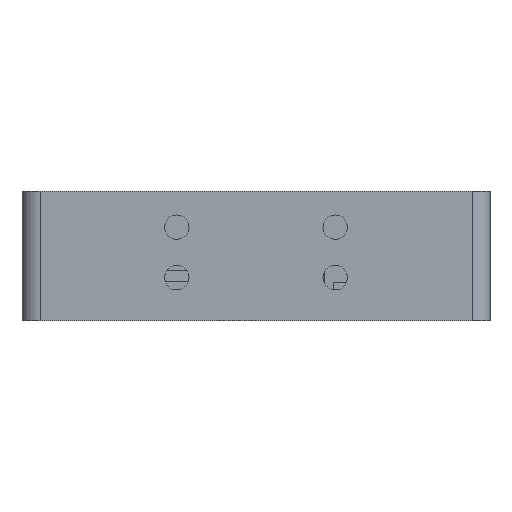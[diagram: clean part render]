
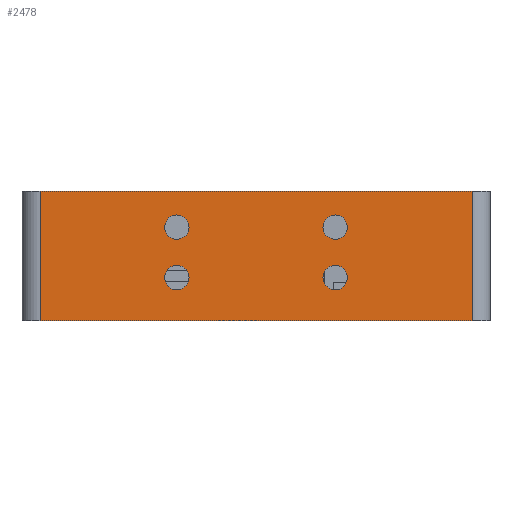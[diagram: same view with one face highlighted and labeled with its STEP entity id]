
A CAD part, front view. The second image highlights one B-rep face of the part: STEP entity #2478.
In plain terms, the highlighted planar face has unit normal (0, -1, 0).
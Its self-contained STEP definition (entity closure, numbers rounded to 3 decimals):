
#44 = PLANE('',#45);
#45 = AXIS2_PLACEMENT_3D('',#46,#47,#48);
#46 = CARTESIAN_POINT('',(0.,0.,36.));
#47 = DIRECTION('',(0.,0.,1.));
#48 = DIRECTION('',(1.,0.,-0.));
#72 = CYLINDRICAL_SURFACE('',#73,5.);
#73 = AXIS2_PLACEMENT_3D('',#74,#75,#76);
#74 = CARTESIAN_POINT('',(5.,5.,0.));
#75 = DIRECTION('',(0.,0.,1.));
#76 = DIRECTION('',(-1.,-0.,0.));
#100 = PLANE('',#101);
#101 = AXIS2_PLACEMENT_3D('',#102,#103,#104);
#102 = CARTESIAN_POINT('',(0.,0.,0.));
#103 = DIRECTION('',(0.,0.,1.));
#104 = DIRECTION('',(1.,0.,-0.));
#2319 = CYLINDRICAL_SURFACE('',#2320,3.4);
#2320 = AXIS2_PLACEMENT_3D('',#2321,#2322,#2323);
#2321 = CARTESIAN_POINT('',(43.,-1.,12.));
#2322 = DIRECTION('',(0.,1.,0.));
#2323 = DIRECTION('',(0.,-0.,1.));
#2350 = CYLINDRICAL_SURFACE('',#2351,3.4);
#2351 = AXIS2_PLACEMENT_3D('',#2352,#2353,#2354);
#2352 = CARTESIAN_POINT('',(43.,-1.,26.));
#2353 = DIRECTION('',(0.,1.,0.));
#2354 = DIRECTION('',(0.,-0.,1.));
#2381 = CYLINDRICAL_SURFACE('',#2382,3.4);
#2382 = AXIS2_PLACEMENT_3D('',#2383,#2384,#2385);
#2383 = CARTESIAN_POINT('',(87.,-1.,12.));
#2384 = DIRECTION('',(0.,1.,0.));
#2385 = DIRECTION('',(0.,-0.,1.));
#2412 = CYLINDRICAL_SURFACE('',#2413,3.4);
#2413 = AXIS2_PLACEMENT_3D('',#2414,#2415,#2416);
#2414 = CARTESIAN_POINT('',(87.,-1.,26.));
#2415 = DIRECTION('',(0.,1.,0.));
#2416 = DIRECTION('',(0.,-0.,1.));
#2429 = VERTEX_POINT('',#2430);
#2430 = CARTESIAN_POINT('',(87.,0.,29.4));
#2451 = EDGE_CURVE('',#2429,#2429,#2452,.T.);
#2452 = SURFACE_CURVE('',#2453,(#2458,#2465),.PCURVE_S1.);
#2453 = CIRCLE('',#2454,3.4);
#2454 = AXIS2_PLACEMENT_3D('',#2455,#2456,#2457);
#2455 = CARTESIAN_POINT('',(87.,0.,26.));
#2456 = DIRECTION('',(0.,1.,0.));
#2457 = DIRECTION('',(0.,-0.,1.));
#2458 = PCURVE('',#2412,#2459);
#2459 = DEFINITIONAL_REPRESENTATION('',(#2460),#2464);
#2460 = LINE('',#2461,#2462);
#2461 = CARTESIAN_POINT('',(0.,1.));
#2462 = VECTOR('',#2463,1.);
#2463 = DIRECTION('',(1.,0.));
#2464 = ( GEOMETRIC_REPRESENTATION_CONTEXT(2) 
PARAMETRIC_REPRESENTATION_CONTEXT() REPRESENTATION_CONTEXT('2D SPACE',''
  ) );
#2465 = PCURVE('',#2466,#2471);
#2466 = PLANE('',#2467);
#2467 = AXIS2_PLACEMENT_3D('',#2468,#2469,#2470);
#2468 = CARTESIAN_POINT('',(0.,0.,0.));
#2469 = DIRECTION('',(0.,1.,0.));
#2470 = DIRECTION('',(0.,-0.,1.));
#2471 = DEFINITIONAL_REPRESENTATION('',(#2472),#2476);
#2472 = CIRCLE('',#2473,3.4);
#2473 = AXIS2_PLACEMENT_2D('',#2474,#2475);
#2474 = CARTESIAN_POINT('',(26.,87.));
#2475 = DIRECTION('',(1.,0.));
#2476 = ( GEOMETRIC_REPRESENTATION_CONTEXT(2) 
PARAMETRIC_REPRESENTATION_CONTEXT() REPRESENTATION_CONTEXT('2D SPACE',''
  ) );
#2478 = ADVANCED_FACE('',(#2479,#2578,#2604,#2630,#2656),#2466,.F.);
#2479 = FACE_BOUND('',#2480,.F.);
#2480 = EDGE_LOOP('',(#2481,#2506,#2529,#2552));
#2481 = ORIENTED_EDGE('',*,*,#2482,.F.);
#2482 = EDGE_CURVE('',#2483,#2485,#2487,.T.);
#2483 = VERTEX_POINT('',#2484);
#2484 = CARTESIAN_POINT('',(5.,0.,0.));
#2485 = VERTEX_POINT('',#2486);
#2486 = CARTESIAN_POINT('',(125.,0.,0.));
#2487 = SURFACE_CURVE('',#2488,(#2492,#2499),.PCURVE_S1.);
#2488 = LINE('',#2489,#2490);
#2489 = CARTESIAN_POINT('',(0.,0.,0.));
#2490 = VECTOR('',#2491,1.);
#2491 = DIRECTION('',(1.,0.,0.));
#2492 = PCURVE('',#2466,#2493);
#2493 = DEFINITIONAL_REPRESENTATION('',(#2494),#2498);
#2494 = LINE('',#2495,#2496);
#2495 = CARTESIAN_POINT('',(0.,0.));
#2496 = VECTOR('',#2497,1.);
#2497 = DIRECTION('',(0.,1.));
#2498 = ( GEOMETRIC_REPRESENTATION_CONTEXT(2) 
PARAMETRIC_REPRESENTATION_CONTEXT() REPRESENTATION_CONTEXT('2D SPACE',''
  ) );
#2499 = PCURVE('',#100,#2500);
#2500 = DEFINITIONAL_REPRESENTATION('',(#2501),#2505);
#2501 = LINE('',#2502,#2503);
#2502 = CARTESIAN_POINT('',(0.,0.));
#2503 = VECTOR('',#2504,1.);
#2504 = DIRECTION('',(1.,0.));
#2505 = ( GEOMETRIC_REPRESENTATION_CONTEXT(2) 
PARAMETRIC_REPRESENTATION_CONTEXT() REPRESENTATION_CONTEXT('2D SPACE',''
  ) );
#2506 = ORIENTED_EDGE('',*,*,#2507,.T.);
#2507 = EDGE_CURVE('',#2483,#2508,#2510,.T.);
#2508 = VERTEX_POINT('',#2509);
#2509 = CARTESIAN_POINT('',(5.,0.,36.));
#2510 = SURFACE_CURVE('',#2511,(#2515,#2522),.PCURVE_S1.);
#2511 = LINE('',#2512,#2513);
#2512 = CARTESIAN_POINT('',(5.,0.,0.));
#2513 = VECTOR('',#2514,1.);
#2514 = DIRECTION('',(0.,0.,1.));
#2515 = PCURVE('',#2466,#2516);
#2516 = DEFINITIONAL_REPRESENTATION('',(#2517),#2521);
#2517 = LINE('',#2518,#2519);
#2518 = CARTESIAN_POINT('',(0.,5.));
#2519 = VECTOR('',#2520,1.);
#2520 = DIRECTION('',(1.,0.));
#2521 = ( GEOMETRIC_REPRESENTATION_CONTEXT(2) 
PARAMETRIC_REPRESENTATION_CONTEXT() REPRESENTATION_CONTEXT('2D SPACE',''
  ) );
#2522 = PCURVE('',#72,#2523);
#2523 = DEFINITIONAL_REPRESENTATION('',(#2524),#2528);
#2524 = LINE('',#2525,#2526);
#2525 = CARTESIAN_POINT('',(1.571,0.));
#2526 = VECTOR('',#2527,1.);
#2527 = DIRECTION('',(0.,1.));
#2528 = ( GEOMETRIC_REPRESENTATION_CONTEXT(2) 
PARAMETRIC_REPRESENTATION_CONTEXT() REPRESENTATION_CONTEXT('2D SPACE',''
  ) );
#2529 = ORIENTED_EDGE('',*,*,#2530,.T.);
#2530 = EDGE_CURVE('',#2508,#2531,#2533,.T.);
#2531 = VERTEX_POINT('',#2532);
#2532 = CARTESIAN_POINT('',(125.,0.,36.));
#2533 = SURFACE_CURVE('',#2534,(#2538,#2545),.PCURVE_S1.);
#2534 = LINE('',#2535,#2536);
#2535 = CARTESIAN_POINT('',(0.,0.,36.));
#2536 = VECTOR('',#2537,1.);
#2537 = DIRECTION('',(1.,0.,0.));
#2538 = PCURVE('',#2466,#2539);
#2539 = DEFINITIONAL_REPRESENTATION('',(#2540),#2544);
#2540 = LINE('',#2541,#2542);
#2541 = CARTESIAN_POINT('',(36.,0.));
#2542 = VECTOR('',#2543,1.);
#2543 = DIRECTION('',(0.,1.));
#2544 = ( GEOMETRIC_REPRESENTATION_CONTEXT(2) 
PARAMETRIC_REPRESENTATION_CONTEXT() REPRESENTATION_CONTEXT('2D SPACE',''
  ) );
#2545 = PCURVE('',#44,#2546);
#2546 = DEFINITIONAL_REPRESENTATION('',(#2547),#2551);
#2547 = LINE('',#2548,#2549);
#2548 = CARTESIAN_POINT('',(0.,0.));
#2549 = VECTOR('',#2550,1.);
#2550 = DIRECTION('',(1.,0.));
#2551 = ( GEOMETRIC_REPRESENTATION_CONTEXT(2) 
PARAMETRIC_REPRESENTATION_CONTEXT() REPRESENTATION_CONTEXT('2D SPACE',''
  ) );
#2552 = ORIENTED_EDGE('',*,*,#2553,.F.);
#2553 = EDGE_CURVE('',#2485,#2531,#2554,.T.);
#2554 = SURFACE_CURVE('',#2555,(#2559,#2566),.PCURVE_S1.);
#2555 = LINE('',#2556,#2557);
#2556 = CARTESIAN_POINT('',(125.,0.,0.));
#2557 = VECTOR('',#2558,1.);
#2558 = DIRECTION('',(0.,0.,1.));
#2559 = PCURVE('',#2466,#2560);
#2560 = DEFINITIONAL_REPRESENTATION('',(#2561),#2565);
#2561 = LINE('',#2562,#2563);
#2562 = CARTESIAN_POINT('',(0.,125.));
#2563 = VECTOR('',#2564,1.);
#2564 = DIRECTION('',(1.,0.));
#2565 = ( GEOMETRIC_REPRESENTATION_CONTEXT(2) 
PARAMETRIC_REPRESENTATION_CONTEXT() REPRESENTATION_CONTEXT('2D SPACE',''
  ) );
#2566 = PCURVE('',#2567,#2572);
#2567 = CYLINDRICAL_SURFACE('',#2568,5.);
#2568 = AXIS2_PLACEMENT_3D('',#2569,#2570,#2571);
#2569 = CARTESIAN_POINT('',(125.,5.,0.));
#2570 = DIRECTION('',(0.,0.,1.));
#2571 = DIRECTION('',(1.,0.,-0.));
#2572 = DEFINITIONAL_REPRESENTATION('',(#2573),#2577);
#2573 = LINE('',#2574,#2575);
#2574 = CARTESIAN_POINT('',(4.712,0.));
#2575 = VECTOR('',#2576,1.);
#2576 = DIRECTION('',(-0.,1.));
#2577 = ( GEOMETRIC_REPRESENTATION_CONTEXT(2) 
PARAMETRIC_REPRESENTATION_CONTEXT() REPRESENTATION_CONTEXT('2D SPACE',''
  ) );
#2578 = FACE_BOUND('',#2579,.F.);
#2579 = EDGE_LOOP('',(#2580));
#2580 = ORIENTED_EDGE('',*,*,#2581,.F.);
#2581 = EDGE_CURVE('',#2582,#2582,#2584,.T.);
#2582 = VERTEX_POINT('',#2583);
#2583 = CARTESIAN_POINT('',(43.,0.,15.4));
#2584 = SURFACE_CURVE('',#2585,(#2590,#2597),.PCURVE_S1.);
#2585 = CIRCLE('',#2586,3.4);
#2586 = AXIS2_PLACEMENT_3D('',#2587,#2588,#2589);
#2587 = CARTESIAN_POINT('',(43.,0.,12.));
#2588 = DIRECTION('',(0.,1.,0.));
#2589 = DIRECTION('',(0.,-0.,1.));
#2590 = PCURVE('',#2466,#2591);
#2591 = DEFINITIONAL_REPRESENTATION('',(#2592),#2596);
#2592 = CIRCLE('',#2593,3.4);
#2593 = AXIS2_PLACEMENT_2D('',#2594,#2595);
#2594 = CARTESIAN_POINT('',(12.,43.));
#2595 = DIRECTION('',(1.,0.));
#2596 = ( GEOMETRIC_REPRESENTATION_CONTEXT(2) 
PARAMETRIC_REPRESENTATION_CONTEXT() REPRESENTATION_CONTEXT('2D SPACE',''
  ) );
#2597 = PCURVE('',#2319,#2598);
#2598 = DEFINITIONAL_REPRESENTATION('',(#2599),#2603);
#2599 = LINE('',#2600,#2601);
#2600 = CARTESIAN_POINT('',(0.,1.));
#2601 = VECTOR('',#2602,1.);
#2602 = DIRECTION('',(1.,0.));
#2603 = ( GEOMETRIC_REPRESENTATION_CONTEXT(2) 
PARAMETRIC_REPRESENTATION_CONTEXT() REPRESENTATION_CONTEXT('2D SPACE',''
  ) );
#2604 = FACE_BOUND('',#2605,.F.);
#2605 = EDGE_LOOP('',(#2606));
#2606 = ORIENTED_EDGE('',*,*,#2607,.F.);
#2607 = EDGE_CURVE('',#2608,#2608,#2610,.T.);
#2608 = VERTEX_POINT('',#2609);
#2609 = CARTESIAN_POINT('',(43.,0.,29.4));
#2610 = SURFACE_CURVE('',#2611,(#2616,#2623),.PCURVE_S1.);
#2611 = CIRCLE('',#2612,3.4);
#2612 = AXIS2_PLACEMENT_3D('',#2613,#2614,#2615);
#2613 = CARTESIAN_POINT('',(43.,0.,26.));
#2614 = DIRECTION('',(0.,1.,0.));
#2615 = DIRECTION('',(0.,-0.,1.));
#2616 = PCURVE('',#2466,#2617);
#2617 = DEFINITIONAL_REPRESENTATION('',(#2618),#2622);
#2618 = CIRCLE('',#2619,3.4);
#2619 = AXIS2_PLACEMENT_2D('',#2620,#2621);
#2620 = CARTESIAN_POINT('',(26.,43.));
#2621 = DIRECTION('',(1.,0.));
#2622 = ( GEOMETRIC_REPRESENTATION_CONTEXT(2) 
PARAMETRIC_REPRESENTATION_CONTEXT() REPRESENTATION_CONTEXT('2D SPACE',''
  ) );
#2623 = PCURVE('',#2350,#2624);
#2624 = DEFINITIONAL_REPRESENTATION('',(#2625),#2629);
#2625 = LINE('',#2626,#2627);
#2626 = CARTESIAN_POINT('',(0.,1.));
#2627 = VECTOR('',#2628,1.);
#2628 = DIRECTION('',(1.,0.));
#2629 = ( GEOMETRIC_REPRESENTATION_CONTEXT(2) 
PARAMETRIC_REPRESENTATION_CONTEXT() REPRESENTATION_CONTEXT('2D SPACE',''
  ) );
#2630 = FACE_BOUND('',#2631,.F.);
#2631 = EDGE_LOOP('',(#2632));
#2632 = ORIENTED_EDGE('',*,*,#2633,.F.);
#2633 = EDGE_CURVE('',#2634,#2634,#2636,.T.);
#2634 = VERTEX_POINT('',#2635);
#2635 = CARTESIAN_POINT('',(87.,0.,15.4));
#2636 = SURFACE_CURVE('',#2637,(#2642,#2649),.PCURVE_S1.);
#2637 = CIRCLE('',#2638,3.4);
#2638 = AXIS2_PLACEMENT_3D('',#2639,#2640,#2641);
#2639 = CARTESIAN_POINT('',(87.,0.,12.));
#2640 = DIRECTION('',(0.,1.,0.));
#2641 = DIRECTION('',(0.,-0.,1.));
#2642 = PCURVE('',#2466,#2643);
#2643 = DEFINITIONAL_REPRESENTATION('',(#2644),#2648);
#2644 = CIRCLE('',#2645,3.4);
#2645 = AXIS2_PLACEMENT_2D('',#2646,#2647);
#2646 = CARTESIAN_POINT('',(12.,87.));
#2647 = DIRECTION('',(1.,0.));
#2648 = ( GEOMETRIC_REPRESENTATION_CONTEXT(2) 
PARAMETRIC_REPRESENTATION_CONTEXT() REPRESENTATION_CONTEXT('2D SPACE',''
  ) );
#2649 = PCURVE('',#2381,#2650);
#2650 = DEFINITIONAL_REPRESENTATION('',(#2651),#2655);
#2651 = LINE('',#2652,#2653);
#2652 = CARTESIAN_POINT('',(0.,1.));
#2653 = VECTOR('',#2654,1.);
#2654 = DIRECTION('',(1.,0.));
#2655 = ( GEOMETRIC_REPRESENTATION_CONTEXT(2) 
PARAMETRIC_REPRESENTATION_CONTEXT() REPRESENTATION_CONTEXT('2D SPACE',''
  ) );
#2656 = FACE_BOUND('',#2657,.F.);
#2657 = EDGE_LOOP('',(#2658));
#2658 = ORIENTED_EDGE('',*,*,#2451,.F.);
